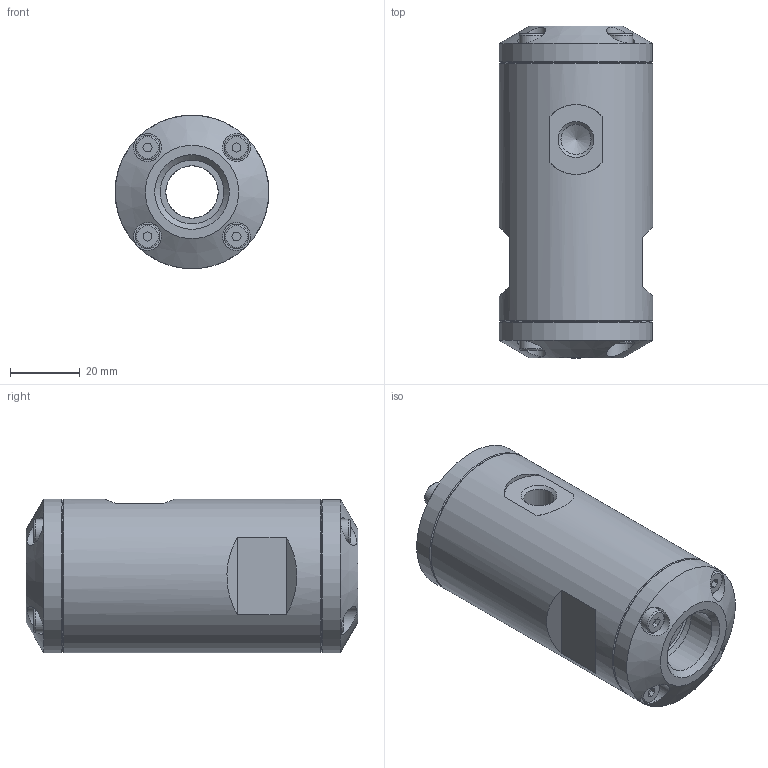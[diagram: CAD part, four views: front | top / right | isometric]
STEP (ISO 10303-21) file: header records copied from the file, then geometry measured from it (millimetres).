
FILE_DESCRIPTION(/* description */ (''),/* implementation_level */ '2;1');
FILE_NAME(/* name */ 'Serie80_QV15_assembly_VEREINFACHT.stp',/* time_stamp */ '2013-10-21T16:57:05+02:00',/* author */ (''),/* organization */ (''),/* preprocessor_version */ 'ST-DEVELOPER v11',/* originating_system */ 'SIEMENS PLM Software NX 7.5',/* authorisation */ '');
FILE_SCHEMA (('AUTOMOTIVE_DESIGN { 1 0 10303 214 1 1 1 1 }'));
Length unit declared in the file: millimetre
Products named in the file (1): memdFD780wf2
Bounding box: 44 x 95 x 44 mm (x, y, z)
Volume: 115479.6 mm3; surface area: 36022 mm2
Topology: 27 solids, 27 shells, 302 faces, 602 edges, 384 vertices
Faces by surface type: plane 145, cylinder 97, torus 30, cone 30
Full cylindrical faces by diameter (mm): 3.24 x16, 3.3 x8, 4 x24, 4.2 x8, 4.4 x8, 7 x8, 8 x8, 8.611 x1, 15 x3, 18.258 x2, 22.9 x2, 41 x2, 41.2 x2, 44 x3
Entity records: 7005 total; most frequent: DIRECTION 1238, CARTESIAN_POINT 1196, ORIENTED_EDGE 794, AXIS2_PLACEMENT_3D 542, EDGE_LOOP 518, FACE_BOUND 431, EDGE_CURVE 397, VERTEX_POINT 336
